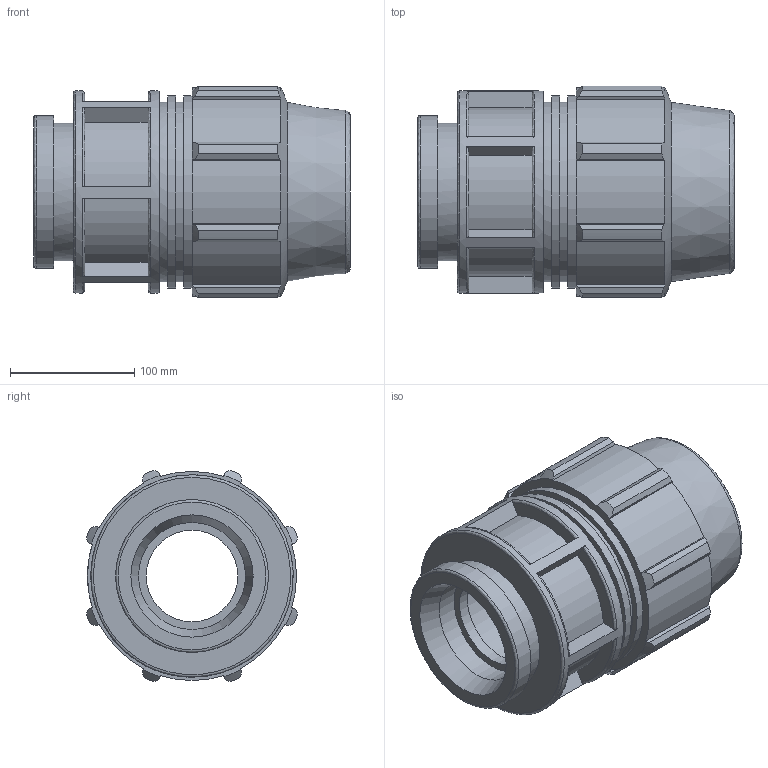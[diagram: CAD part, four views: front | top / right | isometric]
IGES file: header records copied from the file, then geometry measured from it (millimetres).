
Global section: file name: 0732061100400A.ipt; native system: Autodesk Inventor 2015; preprocessor: unknown; author: KIM; date: 20170608.042718; units: millimetre
Bounding box: 255 x 170.31 x 170.31 mm (x, y, z)
Volume: 2498739.9 mm3; surface area: 268575.6 mm2
Topology: 1 solids, 1 shells, 128 faces, 341 edges, 230 vertices
Faces by surface type: plane 68, cylinder 29, revolution 21, cone 10
Full cylindrical faces by diameter (mm): 110.7 x1, 123 x1, 144.8 x2, 154.755 x2, 162.9 x1
